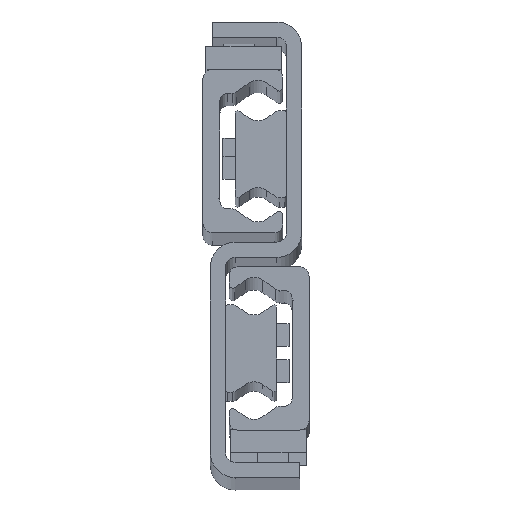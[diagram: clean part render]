
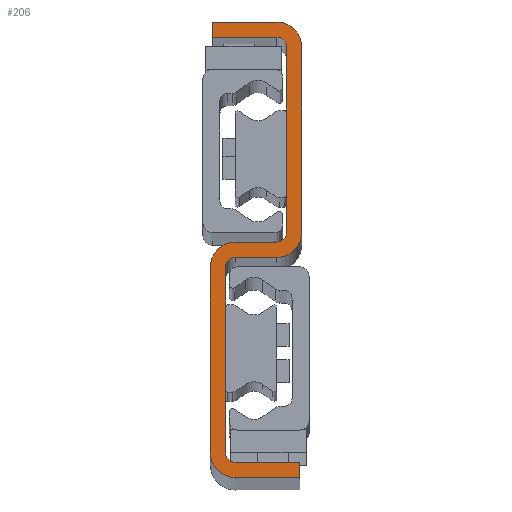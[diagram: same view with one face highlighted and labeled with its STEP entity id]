
A CAD part, top view. The second image highlights one B-rep face of the part: STEP entity #206.
In plain terms, the highlighted planar face has unit normal (0, 0, 1).
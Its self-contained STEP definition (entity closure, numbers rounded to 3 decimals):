
#206=ADVANCED_FACE('',(#769),#770,.T.);
#769=FACE_OUTER_BOUND('',#1711,.T.);
#770=PLANE('',#1712);
#1711=EDGE_LOOP('',(#3373,#3374,#3375,#3376,#3377,#3378,#3379,#3380,#3381,#3382,#3383,#3384,#3385,#3386,#3387,#3388,#3389,#3390,#3391,#3392));
#1712=AXIS2_PLACEMENT_3D('',#3393,#3394,#3395);
#3373=ORIENTED_EDGE('',*,*,#6017,.F.);
#3374=ORIENTED_EDGE('',*,*,#6075,.F.);
#3375=ORIENTED_EDGE('',*,*,#6072,.F.);
#3376=ORIENTED_EDGE('',*,*,#6069,.F.);
#3377=ORIENTED_EDGE('',*,*,#6066,.F.);
#3378=ORIENTED_EDGE('',*,*,#6063,.F.);
#3379=ORIENTED_EDGE('',*,*,#6060,.F.);
#3380=ORIENTED_EDGE('',*,*,#6057,.F.);
#3381=ORIENTED_EDGE('',*,*,#6054,.F.);
#3382=ORIENTED_EDGE('',*,*,#6051,.F.);
#3383=ORIENTED_EDGE('',*,*,#6048,.F.);
#3384=ORIENTED_EDGE('',*,*,#6045,.F.);
#3385=ORIENTED_EDGE('',*,*,#6042,.F.);
#3386=ORIENTED_EDGE('',*,*,#6039,.F.);
#3387=ORIENTED_EDGE('',*,*,#6036,.F.);
#3388=ORIENTED_EDGE('',*,*,#6033,.F.);
#3389=ORIENTED_EDGE('',*,*,#6030,.F.);
#3390=ORIENTED_EDGE('',*,*,#6027,.F.);
#3391=ORIENTED_EDGE('',*,*,#6024,.F.);
#3392=ORIENTED_EDGE('',*,*,#6021,.F.);
#3393=CARTESIAN_POINT('',(-14.,26.,1890.0));
#3394=DIRECTION('',(0.0,0.0,1.0));
#3395=DIRECTION('',(1.0,0.0,0.0));
#6017=EDGE_CURVE('',#7275,#7276,#7277,.T.);
#6021=EDGE_CURVE('',#7276,#7283,#7284,.T.);
#6024=EDGE_CURVE('',#7283,#7288,#7289,.T.);
#6027=EDGE_CURVE('',#7288,#7293,#7294,.T.);
#6030=EDGE_CURVE('',#7293,#7298,#7299,.T.);
#6033=EDGE_CURVE('',#7298,#7303,#7304,.T.);
#6036=EDGE_CURVE('',#7303,#7308,#7309,.T.);
#6039=EDGE_CURVE('',#7308,#7313,#7314,.T.);
#6042=EDGE_CURVE('',#7313,#7318,#7319,.T.);
#6045=EDGE_CURVE('',#7318,#7323,#7324,.T.);
#6048=EDGE_CURVE('',#7323,#7328,#7329,.T.);
#6051=EDGE_CURVE('',#7328,#7333,#7334,.T.);
#6054=EDGE_CURVE('',#7333,#7338,#7339,.T.);
#6057=EDGE_CURVE('',#7338,#7343,#7344,.T.);
#6060=EDGE_CURVE('',#7343,#7348,#7349,.T.);
#6063=EDGE_CURVE('',#7348,#7353,#7354,.T.);
#6066=EDGE_CURVE('',#7353,#7358,#7359,.T.);
#6069=EDGE_CURVE('',#7358,#7363,#7364,.T.);
#6072=EDGE_CURVE('',#7363,#7368,#7369,.T.);
#6075=EDGE_CURVE('',#7368,#7275,#7373,.T.);
#7275=VERTEX_POINT('',#9229);
#7276=VERTEX_POINT('',#9230);
#7277=LINE('',#9231,#9232);
#7283=VERTEX_POINT('',#9241);
#7284=CIRCLE('',#9242,2.5);
#7288=VERTEX_POINT('',#9247);
#7289=LINE('',#9248,#9249);
#7293=VERTEX_POINT('',#9255);
#7294=CIRCLE('',#9256,2.5);
#7298=VERTEX_POINT('',#9261);
#7299=LINE('',#9262,#9263);
#7303=VERTEX_POINT('',#9269);
#7304=LINE('',#9270,#9271);
#7308=VERTEX_POINT('',#9277);
#7309=LINE('',#9278,#9279);
#7313=VERTEX_POINT('',#9285);
#7314=CIRCLE('',#9286,6.5);
#7318=VERTEX_POINT('',#9291);
#7319=LINE('',#9292,#9293);
#7323=VERTEX_POINT('',#9299);
#7324=CIRCLE('',#9300,6.5);
#7328=VERTEX_POINT('',#9305);
#7329=LINE('',#9306,#9307);
#7333=VERTEX_POINT('',#9313);
#7334=CIRCLE('',#9314,2.5);
#7338=VERTEX_POINT('',#9319);
#7339=LINE('',#9320,#9321);
#7343=VERTEX_POINT('',#9327);
#7344=CIRCLE('',#9328,2.5);
#7348=VERTEX_POINT('',#9333);
#7349=LINE('',#9334,#9335);
#7353=VERTEX_POINT('',#9341);
#7354=LINE('',#9342,#9343);
#7358=VERTEX_POINT('',#9349);
#7359=LINE('',#9350,#9351);
#7363=VERTEX_POINT('',#9357);
#7364=CIRCLE('',#9358,6.5);
#7368=VERTEX_POINT('',#9363);
#7369=LINE('',#9364,#9365);
#7373=CIRCLE('',#9371,6.5);
#9229=CARTESIAN_POINT('',(-8.5,24.,1890.0));
#9230=CARTESIAN_POINT('',(-19.5,24.,1890.0));
#9231=CARTESIAN_POINT('',(-8.5,24.,1890.0));
#9232=VECTOR('',#11385,1.0);
#9241=CARTESIAN_POINT('',(-22.,21.5,1890.0));
#9242=AXIS2_PLACEMENT_3D('',#11389,#11390,#11391);
#9247=CARTESIAN_POINT('',(-22.,-27.5,1890.0));
#9248=CARTESIAN_POINT('',(-22.,-27.5,1890.0));
#9249=VECTOR('',#11396,1.0);
#9255=CARTESIAN_POINT('',(-19.5,-30.,1890.0));
#9256=AXIS2_PLACEMENT_3D('',#11399,#11400,#11401);
#9261=CARTESIAN_POINT('',(-2.5,-30.,1890.0));
#9262=CARTESIAN_POINT('',(-19.5,-30.,1890.0));
#9263=VECTOR('',#11406,1.0);
#9269=CARTESIAN_POINT('',(-2.5,-34.,1890.0));
#9270=CARTESIAN_POINT('',(-2.5,-34.,1890.0));
#9271=VECTOR('',#11409,1.0);
#9277=CARTESIAN_POINT('',(-19.5,-34.,1890.0));
#9278=CARTESIAN_POINT('',(-19.5,-34.,1890.0));
#9279=VECTOR('',#11412,1.0);
#9285=CARTESIAN_POINT('',(-26.,-27.5,1890.0));
#9286=AXIS2_PLACEMENT_3D('',#11415,#11416,#11417);
#9291=CARTESIAN_POINT('',(-26.,21.5,1890.0));
#9292=CARTESIAN_POINT('',(-26.,21.5,1890.0));
#9293=VECTOR('',#11422,1.0);
#9299=CARTESIAN_POINT('',(-19.5,28.,1890.0));
#9300=AXIS2_PLACEMENT_3D('',#11425,#11426,#11427);
#9305=CARTESIAN_POINT('',(-8.5,28.,1890.0));
#9306=CARTESIAN_POINT('',(-8.5,28.,1890.0));
#9307=VECTOR('',#11432,1.0);
#9313=CARTESIAN_POINT('',(-6.,30.5,1890.0));
#9314=AXIS2_PLACEMENT_3D('',#11435,#11436,#11437);
#9319=CARTESIAN_POINT('',(-6.,79.5,1890.0));
#9320=CARTESIAN_POINT('',(-6.,79.5,1890.0));
#9321=VECTOR('',#11442,1.0);
#9327=CARTESIAN_POINT('',(-8.5,82.,1890.0));
#9328=AXIS2_PLACEMENT_3D('',#11445,#11446,#11447);
#9333=CARTESIAN_POINT('',(-25.5,82.,1890.0));
#9334=CARTESIAN_POINT('',(-25.5,82.,1890.0));
#9335=VECTOR('',#11452,1.0);
#9341=CARTESIAN_POINT('',(-25.5,86.,1890.0));
#9342=CARTESIAN_POINT('',(-25.5,86.,1890.0));
#9343=VECTOR('',#11455,1.0);
#9349=CARTESIAN_POINT('',(-8.5,86.,1890.0));
#9350=CARTESIAN_POINT('',(-25.5,86.,1890.0));
#9351=VECTOR('',#11458,1.0);
#9357=CARTESIAN_POINT('',(-2.,79.5,1890.0));
#9358=AXIS2_PLACEMENT_3D('',#11461,#11462,#11463);
#9363=CARTESIAN_POINT('',(-2.,30.5,1890.0));
#9364=CARTESIAN_POINT('',(-2.,79.5,1890.0));
#9365=VECTOR('',#11468,1.0);
#9371=AXIS2_PLACEMENT_3D('',#11471,#11472,#11473);
#11385=DIRECTION('',(-1.0,0.,0.0));
#11389=CARTESIAN_POINT('',(-19.5,21.5,1890.0));
#11390=DIRECTION('',(0.0,0.0,1.0));
#11391=DIRECTION('',(1.0,0.0,0.0));
#11396=DIRECTION('',(-0.0,-1.0,-0.0));
#11399=CARTESIAN_POINT('',(-19.5,-27.5,1890.0));
#11400=DIRECTION('',(0.0,0.0,1.0));
#11401=DIRECTION('',(1.0,0.0,0.0));
#11406=DIRECTION('',(1.,0.,0.0));
#11409=DIRECTION('',(-0.0,-1.0,-0.0));
#11412=DIRECTION('',(-1.,0.,-0.0));
#11415=CARTESIAN_POINT('',(-19.5,-27.5,1890.0));
#11416=DIRECTION('',(0.0,0.0,-1.0));
#11417=DIRECTION('',(1.0,0.0,0.0));
#11422=DIRECTION('',(0.0,1.0,0.0));
#11425=CARTESIAN_POINT('',(-19.5,21.5,1890.0));
#11426=DIRECTION('',(0.0,0.0,-1.0));
#11427=DIRECTION('',(1.0,0.0,0.0));
#11432=DIRECTION('',(1.0,0.,0.0));
#11435=CARTESIAN_POINT('',(-8.5,30.5,1890.0));
#11436=DIRECTION('',(0.0,0.0,1.0));
#11437=DIRECTION('',(1.0,0.0,0.0));
#11442=DIRECTION('',(0.0,1.0,0.0));
#11445=CARTESIAN_POINT('',(-8.5,79.5,1890.0));
#11446=DIRECTION('',(0.0,0.0,1.0));
#11447=DIRECTION('',(1.0,0.0,0.0));
#11452=DIRECTION('',(-1.,0.,0.0));
#11455=DIRECTION('',(0.0,1.0,0.0));
#11458=DIRECTION('',(1.,0.,0.0));
#11461=CARTESIAN_POINT('',(-8.5,79.5,1890.0));
#11462=DIRECTION('',(0.0,0.0,-1.0));
#11463=DIRECTION('',(1.0,0.0,0.0));
#11468=DIRECTION('',(0.,-1.0,0.0));
#11471=CARTESIAN_POINT('',(-8.5,30.5,1890.0));
#11472=DIRECTION('',(0.0,0.0,-1.0));
#11473=DIRECTION('',(1.0,0.0,0.0));
